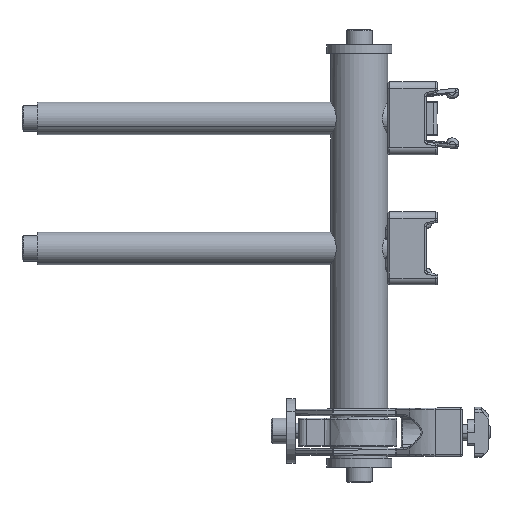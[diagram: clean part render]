
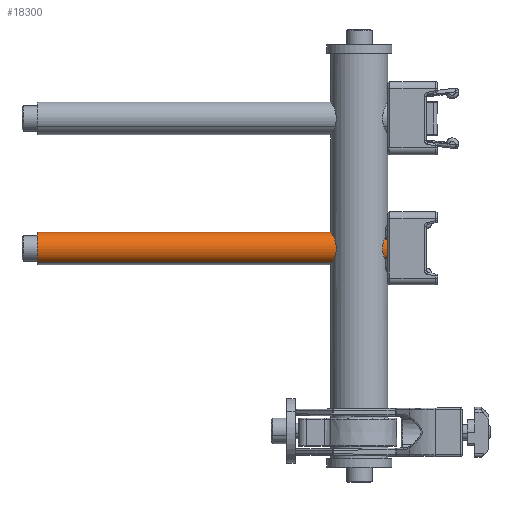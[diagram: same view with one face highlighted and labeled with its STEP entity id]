
A CAD part, top view. The second image highlights one B-rep face of the part: STEP entity #18300.
In plain terms, the highlighted cylindrical face has radius 6.35 mm (diameter 12.7 mm), a partial arc.
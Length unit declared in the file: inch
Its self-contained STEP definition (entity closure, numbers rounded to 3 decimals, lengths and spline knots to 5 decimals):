
#18183=DIRECTION('',(0.,0.,1.));
#18184=VECTOR('',#18183,5.39);
#18185=CARTESIAN_POINT('',(-0.25,0.,-2.695));
#18186=LINE('',#18185,#18184);
#18187=CARTESIAN_POINT('',(0.,0.,2.695));
#18188=DIRECTION('',(0.,0.,1.));
#18189=DIRECTION('',(-1.,0.,0.));
#18190=AXIS2_PLACEMENT_3D('',#18187,#18188,#18189);
#18207=DIRECTION('',(0.,0.,1.));
#18208=VECTOR('',#18207,5.39);
#18209=CARTESIAN_POINT('',(0.25,0.,-2.695));
#18210=LINE('',#18209,#18208);
#18211=CARTESIAN_POINT('',(0.,0.,-2.695));
#18212=DIRECTION('',(0.,0.,-1.));
#18213=DIRECTION('',(1.,0.,0.));
#18214=AXIS2_PLACEMENT_3D('',#18211,#18212,#18213);
#18243=CARTESIAN_POINT('',(-0.25,0.,-2.695));
#18244=CARTESIAN_POINT('',(-0.25,0.,2.695));
#18245=VERTEX_POINT('',#18243);
#18246=VERTEX_POINT('',#18244);
#18249=CARTESIAN_POINT('',(0.25,0.,-2.695));
#18250=CARTESIAN_POINT('',(0.25,0.,2.695));
#18251=VERTEX_POINT('',#18249);
#18252=VERTEX_POINT('',#18250);
#18288=CARTESIAN_POINT('',(0.,0.,2.695));
#18289=DIRECTION('',(0.,0.,-1.));
#18290=DIRECTION('',(-1.,0.,0.));
#18291=AXIS2_PLACEMENT_3D('',#18288,#18289,#18290);
#18292=CYLINDRICAL_SURFACE('',#18291,0.25);
#18293=ORIENTED_EDGE('',*,*,#18266,.F.);
#18295=ORIENTED_EDGE('',*,*,#18294,.T.);
#18296=ORIENTED_EDGE('',*,*,#18262,.T.);
#18297=ORIENTED_EDGE('',*,*,#18276,.T.);
#18298=EDGE_LOOP('',(#18293,#18295,#18296,#18297));
#18299=FACE_OUTER_BOUND('',#18298,.F.);
#18191=CIRCLE('',#18190,0.25);
#18215=CIRCLE('',#18214,0.25);
#18262=EDGE_CURVE('',#18245,#18246,#18186,.T.);
#18266=EDGE_CURVE('',#18251,#18252,#18210,.T.);
#18276=EDGE_CURVE('',#18246,#18252,#18191,.T.);
#18294=EDGE_CURVE('',#18251,#18245,#18215,.T.);
#18300=ADVANCED_FACE('',(#18299),#18292,.T.);
